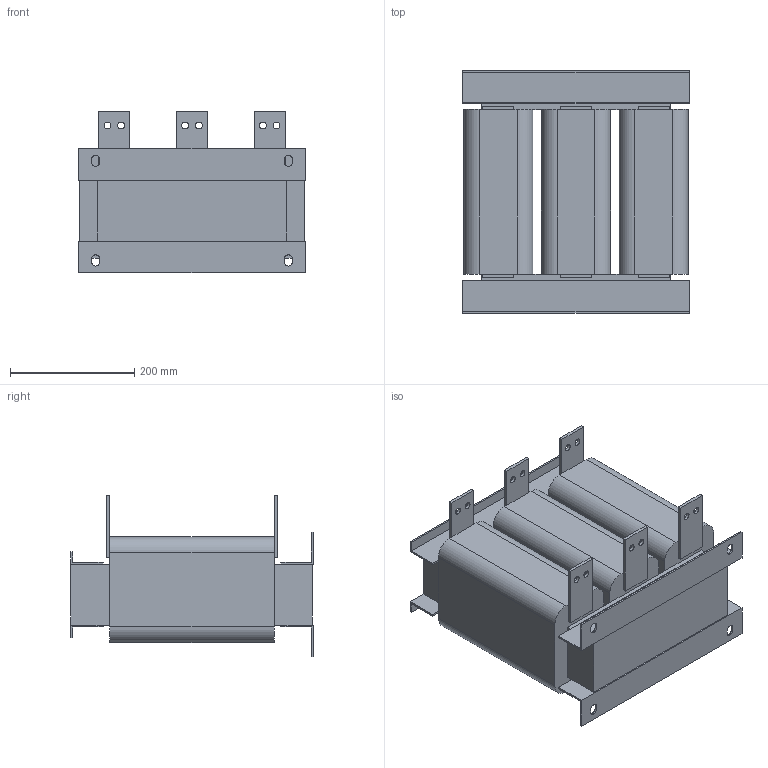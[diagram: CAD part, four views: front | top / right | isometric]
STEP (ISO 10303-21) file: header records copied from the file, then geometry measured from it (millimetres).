
FILE_DESCRIPTION(/* description */ (''),/* implementation_level */ '2;1');
FILE_NAME(/* name */ 'E:\Работа\Веда МК (Данфосс)\!Текущие задачи\2024.08.30 3D модели\Дроссели\ACO 1-проц 660 В\STP\ACO-C-0600-T6.stp',/* time_stamp */ '2024-11-01T17:40:39+04:00',/* author */ ('Александр (огранич)'),/* organization */ (''),/* preprocessor_version */ 'ST-DEVELOPER v18.1',/* originating_system */ 'Autodesk Inventor 2021',/* authorisation */ '');
FILE_SCHEMA (('AUTOMOTIVE_DESIGN { 1 0 10303 214 3 1 1 }'));
Length unit declared in the file: millimetre
Products named in the file (1): ACO-0015-T4-4
Bounding box: 365 x 390 x 260 mm (x, y, z)
Volume: 18765134.1 mm3; surface area: 877392.2 mm2
Topology: 3 solids, 3 shells, 142 faces, 394 edges, 254 vertices
Faces by surface type: plane 110, cylinder 32
Full cylindrical faces by diameter (mm): 11 x12
Entity records: 4591 total; most frequent: CARTESIAN_POINT 791, ORIENTED_EDGE 788, DIRECTION 750, EDGE_CURVE 394, LINE 324, VECTOR 324, VERTEX_POINT 254, AXIS2_PLACEMENT_3D 213
